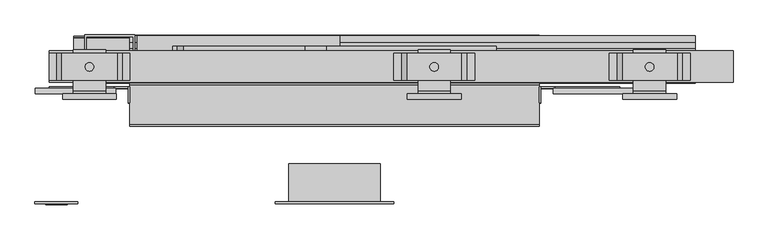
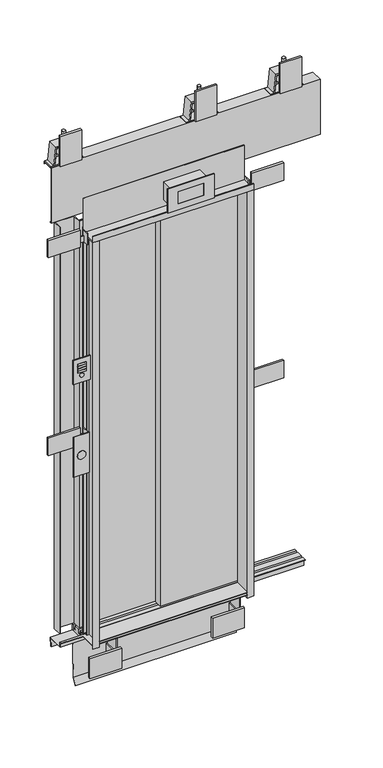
"""IFC4 building model written with IfcOpenShell, lengths in millimetres: proxy geometry, SHLZ_Дверь_0621Е_0411 : SHLZ_Дверь_0621Е_0411."""

from ifc_helpers import new_model, si_unit, point, frame, frame_2d, origin, origin_with_axes, place, context, project, spatial, polyline, circle_curve, trimmed, segment, composite_curve, outline, extrude, faceted_brep, source, transform, mapped, element, save
from ifc_brep_helpers import plane_surface, cylinder_surface, advanced_brep


def generic_models_b9712135(model_context):
    return source(origin(), model_context, "Body", "SolidModel", [
        extrude(outline(polyline([(-365.0, 20.0), (-350.0, 20.0), (-350.0, -60.0), (-380.0, -60.0), (-380.0, -57.0), (-353.0, -57.0), (-353.0, 17.0), (-365.0, 17.0), (-365.0, 20.0)])), frame((0.0, 0.0, -30.0), z_axis=(0.0, 0.0, 1.0), x_axis=(1.0, 0.0, 0.0)), (0.0, 0.0, 1.0), 2030.0),
        extrude(outline(polyline([(-57.0, 2030.0), (-57.0, 2003.0), (17.0, 2003.0), (17.0, 2175.0), (20.0, 2175.0), (20.0, 2000.0), (-60.0, 2000.0), (-60.0, 2030.0), (-57.0, 2030.0)])), frame((-380.0, 0.0, 0.0), z_axis=(1.0, 0.0, 0.0), x_axis=(0.0, 1.0, 0.0)), (0.0, 0.0, 1.0), 760.0),
        extrude(outline(polyline([(-556.3, -200.0), (-476.3, -200.0), (-476.3, -204.0), (-556.3, -204.0), (-556.3, -200.0)])), frame((0.0, 0.0, 1440.0), z_axis=(0.0, 0.0, 1.0), x_axis=(1.0, 0.0, 0.0)), (0.0, 0.0, 1.0), 120.0),
        extrude(outline(composite_curve([segment(trimmed(circle_curve(frame_2d((1476.0113201, -516.3)), 10.0), [point((1476.0113201, -526.3))], [point((1476.0113201, -506.3))], False, "CARTESIAN"), True, "CONTINUOUS"), segment(trimmed(circle_curve(frame_2d((1476.0113201, -516.3)), 10.0), [point((1476.0113201, -506.3))], [point((1476.0113201, -526.3))], False, "CARTESIAN"), True, "CONTINUOUS")], self_intersect=False)), frame((0.0, -206.0, 0.0), z_axis=(0.0, 1.0, 0.0), x_axis=(0.0, 0.0, 1.0)), (0.0, 0.0, 1.0), 2.0),
        extrude(outline(polyline([(-536.3, -206.0), (-536.3, -204.0), (-496.3, -204.0), (-496.3, -206.0), (-536.3, -206.0)])), frame((0.0, 0.0, 1502.3637345), z_axis=(0.0, 0.0, 1.0), x_axis=(1.0, 0.0, 0.0)), (0.0, 0.0, 1.0), 10.0),
        extrude(outline(polyline([(-536.3, -206.0), (-536.3, -204.0), (-496.3, -204.0), (-496.3, -206.0), (-536.3, -206.0)])), frame((0.0, 0.0, 1490.6113201), z_axis=(0.0, 0.0, 1.0), x_axis=(1.0, 0.0, 0.0)), (0.0, 0.0, 1.0), 10.0),
        extrude(outline(polyline([(-536.3, -206.0), (-536.3, -204.0), (-496.3, -204.0), (-496.3, -206.0), (-536.3, -206.0)])), frame((0.0, 0.0, 1514.1161488), z_axis=(0.0, 0.0, 1.0), x_axis=(1.0, 0.0, 0.0)), (0.0, 0.0, 1.0), 10.0),
        extrude(outline(polyline([(-536.3, -206.0), (-536.3, -204.0), (-496.3, -204.0), (-496.3, -206.0), (-536.3, -206.0)])), frame((0.0, 0.0, 1525.8685632), z_axis=(0.0, 0.0, 1.0), x_axis=(1.0, 0.0, 0.0)), (0.0, 0.0, 1.0), 10.0),
        extrude(outline(polyline([(-553.5601691, -202.0), (-553.5601691, -200.0), (-479.0398309, -200.0), (-479.0398309, -202.0), (-553.5601691, -202.0)])), frame((0.0, 0.0, 975.0), z_axis=(0.0, 0.0, 1.0), x_axis=(1.0, 0.0, 0.0)), (0.0, 0.0, 1.0), 200.0),
        extrude(outline(composite_curve([segment(trimmed(circle_curve(frame_2d((1075.0, -516.3)), 20.0), [point((1075.0, -496.3))], [point((1075.0, -536.3))], False, "CARTESIAN"), True, "CONTINUOUS"), segment(trimmed(circle_curve(frame_2d((1075.0, -516.3)), 20.0), [point((1075.0, -536.3))], [point((1075.0, -496.3))], False, "CARTESIAN"), True, "CONTINUOUS")], self_intersect=False)), frame((0.0, -204.0226285, 0.0), z_axis=(0.0, 1.0, 0.0), x_axis=(0.0, 0.0, 1.0)), (0.0, 0.0, 1.0), 2.0226285),
        extrude(outline(polyline([(-556.0, 10.0), (-406.0, 10.0), (-406.0, 0.0), (-556.0, 0.0), (-556.0, 10.0)])), frame((0.0, 0.0, 1949.5), z_axis=(0.0, 0.0, 1.0), x_axis=(1.0, 0.0, 0.0)), (0.0, 0.0, 1.0), 87.0),
        faceted_brep([(-380.0, -17.0, 2021.5), (-383.0, -17.0, 2021.5), (-383.0, -17.0, 1964.5), (-380.0, -17.0, 1964.5), (-530.0, 13.0, 2021.5), (-410.0, 13.0, 2021.5), (-410.0, 13.0, 1994.5), (-383.0, 13.0, 1994.5), (-383.0, 13.0, 2021.5), (-380.0, 13.0, 2021.5), (-380.0, 13.0, 1964.5), (-530.0, 13.0, 1964.5), (-530.0, 10.0, 2021.5), (-410.0, 10.0, 2021.5), (-383.0, 10.0, 1964.5), (-530.0, 10.0, 1964.5), (-383.0, 10.0, 1994.5), (-410.0, 10.0, 1994.5)], [[[0, 1, 2, 3]], [[4, 5, 6, 7, 8, 9, 10, 11]], [[9, 8, 1, 0]], [[12, 13, 5, 4]], [[3, 10, 9, 0]], [[10, 3, 2, 14, 15, 11]], [[11, 15, 12, 4]], [[14, 16, 17, 13, 12, 15]], [[1, 8, 7, 16, 14, 2]], [[7, 6, 17, 16]], [[6, 5, 13, 17]]]),
        extrude(outline(polyline([(556.0, 10.0), (556.0, 0.0), (406.0, 0.0), (406.0, 10.0), (556.0, 10.0)])), frame((0.0, 0.0, 1949.5), z_axis=(0.0, 0.0, 1.0), x_axis=(1.0, 0.0, 0.0)), (0.0, 0.0, 1.0), 87.0),
        faceted_brep([(380.0, -17.0, 2021.5), (380.0, -17.0, 1964.5), (383.0, -17.0, 1964.5), (383.0, -17.0, 2021.5), (530.0, 13.0, 2021.5), (530.0, 13.0, 1964.5), (380.0, 13.0, 1964.5), (380.0, 13.0, 2021.5), (383.0, 13.0, 2021.5), (383.0, 13.0, 1994.5), (410.0, 13.0, 1994.5), (410.0, 13.0, 2021.5), (530.0, 10.0, 2021.5), (410.0, 10.0, 2021.5), (530.0, 10.0, 1964.5), (383.0, 10.0, 1964.5), (410.0, 10.0, 1994.5), (383.0, 10.0, 1994.5)], [[[0, 1, 2, 3]], [[4, 5, 6, 7, 8, 9, 10, 11]], [[12, 4, 11, 13]], [[7, 0, 3, 8]], [[1, 0, 7, 6]], [[6, 5, 14, 15, 2, 1]], [[5, 4, 12, 14]], [[15, 14, 12, 13, 16, 17]], [[3, 2, 15, 17, 9, 8]], [[9, 17, 16, 10]], [[10, 16, 13, 11]]]),
        extrude(outline(polyline([(-556.0, 10.0), (-406.0, 10.0), (-406.0, 0.0), (-556.0, 0.0), (-556.0, 10.0)])), frame((0.0, 0.0, 961.5), z_axis=(0.0, 0.0, 1.0), x_axis=(1.0, 0.0, 0.0)), (0.0, 0.0, 1.0), 87.0),
        faceted_brep([(-380.0, -17.0, 1033.5), (-383.0, -17.0, 1033.5), (-383.0, -17.0, 976.5), (-380.0, -17.0, 976.5), (-530.0, 13.0, 1033.5), (-410.0, 13.0, 1033.5), (-410.0, 13.0, 1006.5), (-383.0, 13.0, 1006.5), (-383.0, 13.0, 1033.5), (-380.0, 13.0, 1033.5), (-380.0, 13.0, 976.5), (-530.0, 13.0, 976.5), (-530.0, 10.0, 1033.5), (-410.0, 10.0, 1033.5), (-383.0, 10.0, 976.5), (-530.0, 10.0, 976.5), (-383.0, 10.0, 1006.5), (-410.0, 10.0, 1006.5)], [[[0, 1, 2, 3]], [[4, 5, 6, 7, 8, 9, 10, 11]], [[9, 8, 1, 0]], [[12, 13, 5, 4]], [[3, 10, 9, 0]], [[10, 3, 2, 14, 15, 11]], [[11, 15, 12, 4]], [[14, 16, 17, 13, 12, 15]], [[1, 8, 7, 16, 14, 2]], [[7, 6, 17, 16]], [[6, 5, 13, 17]]]),
        extrude(outline(polyline([(556.0, 10.0), (556.0, 0.0), (406.0, 0.0), (406.0, 10.0), (556.0, 10.0)])), frame((0.0, 0.0, 961.5), z_axis=(0.0, 0.0, 1.0), x_axis=(1.0, 0.0, 0.0)), (0.0, 0.0, 1.0), 87.0),
        faceted_brep([(380.0, -17.0, 1033.5), (380.0, -17.0, 976.5), (383.0, -17.0, 976.5), (383.0, -17.0, 1033.5), (530.0, 13.0, 1033.5), (530.0, 13.0, 976.5), (380.0, 13.0, 976.5), (380.0, 13.0, 1033.5), (383.0, 13.0, 1033.5), (383.0, 13.0, 1006.5), (410.0, 13.0, 1006.5), (410.0, 13.0, 1033.5), (530.0, 10.0, 1033.5), (410.0, 10.0, 1033.5), (530.0, 10.0, 976.5), (383.0, 10.0, 976.5), (410.0, 10.0, 1006.5), (383.0, 10.0, 1006.5)], [[[0, 1, 2, 3]], [[4, 5, 6, 7, 8, 9, 10, 11]], [[12, 4, 11, 13]], [[7, 0, 3, 8]], [[1, 0, 7, 6]], [[6, 5, 14, 15, 2, 1]], [[5, 4, 12, 14]], [[15, 14, 12, 13, 16, 17]], [[3, 2, 15, 17, 9, 8]], [[9, 17, 16, 10]], [[10, 16, 13, 11]]]),
        extrude(outline(polyline([(82.0, 2410.0), (0.0, 2410.0), (0.0, 2530.0), (5.0, 2530.0), (5.0, 2415.0), (82.0, 2415.0), (82.0, 2410.0)])), frame((555.0, 0.0, 0.0), z_axis=(1.0, 0.0, 0.0), x_axis=(0.0, 1.0, 0.0)), (0.0, 0.0, 1.0), 60.0),
        extrude(outline(polyline([(635.0, 0.0), (635.0, -10.0), (535.0, -10.0), (535.0, 0.0), (635.0, 0.0)])), frame((0.0, 0.0, 2394.0), z_axis=(0.0, 0.0, 1.0), x_axis=(1.0, 0.0, 0.0)), (0.0, 0.0, 1.0), 150.0),
        extrude(outline(polyline([(660.0, 25.0), (510.0, 25.0), (510.0, 75.0), (660.0, 75.0), (660.0, 25.0)])), frame((0.0, 0.0, 2375.0), z_axis=(0.0, 0.0, 1.0), x_axis=(1.0, 0.0, 0.0)), (0.0, 0.0, 1.0), 5.0),
        advanced_brep(
        [(577.0, 50.0, 2410.0), (593.0, 50.0, 2410.0), (577.0, 50.0, 2385.0), (593.0, 50.0, 2385.0)],
        [
            (0, 1, circle_curve(frame((585.0, 50.0, 2410.0), z_axis=(0.0, 0.0, 1.0), x_axis=(1.0, 0.0, 0.0)), 8.0)),
            (1, 0, circle_curve(frame((585.0, 50.0, 2410.0), z_axis=(0.0, 0.0, 1.0), x_axis=(1.0, 0.0, 0.0)), 8.0)),
            (2, 3, circle_curve(frame((585.0, 50.0, 2385.0), z_axis=(0.0, 0.0, -1.0), x_axis=(1.0, 0.0, 0.0)), 8.0)),
            (3, 2, circle_curve(frame((585.0, 50.0, 2385.0), z_axis=(0.0, 0.0, -1.0), x_axis=(1.0, 0.0, 0.0)), 8.0)),
            (3, 1),
            (0, 2),
        ],
        [
            plane_surface(frame((615.0, 0.0, 2410.0), z_axis=(0.0, 0.0, 1.0), x_axis=(-1.0, 0.0, 0.0))),
            plane_surface(frame((593.0, 50.0, 2385.0), z_axis=(0.0, 0.0, -1.0), x_axis=(0.0, -1.0, 0.0))),
            cylinder_surface(frame((585.0, 50.0, 2385.0), z_axis=(0.0, 0.0, 1.0), x_axis=(1.0, 0.0, 0.0)), 8.0),
        ],
        [
            (0, [[1, 2]]),
            (1, [[3, 4]]),
            (2, [[-4, 5, -1, 6]]),
            (2, [[-3, -6, -2, -5]]),
        ],
    ),
        advanced_brep(
        [(538.3, 25.0, 2465.0), (529.0, 25.0, 2380.0), (529.0, 75.0, 2380.0), (538.3, 75.0, 2465.0), (524.0, 75.0, 2380.0), (533.8470588, 75.0, 2470.0), (636.1529412, 75.0, 2470.0), (646.0, 75.0, 2380.0), (641.0, 75.0, 2380.0), (631.7, 75.0, 2465.0), (577.0, 50.0, 2521.0), (593.0, 50.0, 2521.0), (577.0, 50.0, 2470.0), (593.0, 50.0, 2470.0), (631.7, 25.0, 2465.0), (641.0, 25.0, 2380.0), (646.0, 25.0, 2380.0), (636.1529412, 25.0, 2470.0), (533.8470588, 25.0, 2470.0), (524.0, 25.0, 2380.0), (577.0, 50.0, 2465.0), (593.0, 50.0, 2465.0), (593.0, 50.0, 2415.0), (577.0, 50.0, 2415.0)],
        [
            (0, 1),
            (1, 2),
            (2, 3),
            (3, 0),
            (2, 4),
            (4, 5),
            (5, 6),
            (6, 7),
            (7, 8),
            (8, 9),
            (9, 3),
            (10, 11, circle_curve(frame((585.0, 50.0, 2521.0), z_axis=(0.0, 0.0, 1.0), x_axis=(1.0, 0.0, 0.0)), 8.0)),
            (11, 10, circle_curve(frame((585.0, 50.0, 2521.0), z_axis=(0.0, 0.0, 1.0), x_axis=(1.0, 0.0, 0.0)), 8.0)),
            (10, 12),
            (12, 13, circle_curve(frame((585.0, 50.0, 2470.0), z_axis=(0.0, 0.0, 1.0), x_axis=(1.0, 0.0, 0.0)), 8.0)),
            (13, 11),
            (13, 12, circle_curve(frame((585.0, 50.0, 2470.0), z_axis=(0.0, 0.0, 1.0), x_axis=(1.0, 0.0, 0.0)), 8.0)),
            (0, 14),
            (14, 15),
            (15, 16),
            (16, 17),
            (17, 18),
            (18, 19),
            (19, 1),
            (9, 14),
            (20, 21, circle_curve(frame((585.0, 50.0, 2465.0), z_axis=(0.0, 0.0, 1.0), x_axis=(1.0, 0.0, 0.0)), 8.0)),
            (21, 20, circle_curve(frame((585.0, 50.0, 2465.0), z_axis=(0.0, 0.0, 1.0), x_axis=(1.0, 0.0, 0.0)), 8.0)),
            (8, 15),
            (7, 16),
            (6, 17),
            (5, 18),
            (4, 19),
            (22, 23, circle_curve(frame((585.0, 50.0, 2415.0), z_axis=(0.0, 0.0, -1.0), x_axis=(1.0, 0.0, 0.0)), 8.0)),
            (23, 22, circle_curve(frame((585.0, 50.0, 2415.0), z_axis=(0.0, 0.0, -1.0), x_axis=(1.0, 0.0, 0.0)), 8.0)),
            (20, 23),
            (22, 21),
        ],
        [
            plane_surface(frame((529.0, 25.0, 2380.0), z_axis=(0.9940677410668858, 0.0, -0.10876270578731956), x_axis=(0.0, 1.0, 0.0))),
            plane_surface(frame((538.3, 75.0, 2465.0), z_axis=(0.0, 1.0, 0.0), x_axis=(-1.0, 0.0, 0.0))),
            plane_surface(frame((593.0, 50.0, 2521.0), z_axis=(0.0, 0.0, 1.0), x_axis=(0.0, 1.0, 0.0))),
            cylinder_surface(frame((585.0, 50.0, 2385.0), z_axis=(0.0, 0.0, 1.0), x_axis=(1.0, 0.0, 0.0)), 8.0),
            plane_surface(frame((538.3, 25.0, 2465.0), z_axis=(0.0, -1.0, 0.0), x_axis=(1.0, 0.0, 0.0))),
            plane_surface(frame((538.3, 25.0, 2465.0), z_axis=(0.0, 0.0, -1.0), x_axis=(0.0, 1.0, 0.0))),
            plane_surface(frame((631.7, 25.0, 2465.0), z_axis=(-0.9940677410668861, 0.0, -0.1087627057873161), x_axis=(0.0, 1.0, 0.0))),
            plane_surface(frame((641.0, 25.0, 2380.0), z_axis=(0.0, 0.0, -1.0), x_axis=(0.0, 1.0, 0.0))),
            plane_surface(frame((646.0, 25.0, 2380.0), z_axis=(0.9940677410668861, 0.0, 0.10876270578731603), x_axis=(0.0, 1.0, 0.0))),
            plane_surface(frame((636.1529412, 25.0, 2470.0), z_axis=(0.0, 0.0, 1.0), x_axis=(0.0, 1.0, 0.0))),
            plane_surface(frame((533.8470588, 25.0, 2470.0), z_axis=(-0.9940677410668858, 0.0, 0.10876270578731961), x_axis=(0.0, 1.0, 0.0))),
            plane_surface(frame((524.0, 25.0, 2380.0), z_axis=(0.0, 0.0, -1.0), x_axis=(0.0, 1.0, 0.0))),
            plane_surface(frame((615.0, 82.0, 2415.0), z_axis=(0.0, 0.0, -1.0), x_axis=(-1.0, 0.0, 0.0))),
        ],
        [
            (0, [[1, 2, 3, 4]]),
            (1, [[-3, 5, 6, 7, 8, 9, 10, 11]]),
            (2, [[12, 13]]),
            (3, [[-12, 14, 15, 16]]),
            (3, [[-13, -16, 17, -14]]),
            (4, [[18, 19, 20, 21, 22, 23, 24, -1]]),
            (5, [[-18, -4, -11, 25], [26, 27]]),
            (6, [[-19, -25, -10, 28]]),
            (7, [[-20, -28, -9, 29]]),
            (8, [[-21, -29, -8, 30]]),
            (9, [[-22, -30, -7, 31], [-15, -17]]),
            (10, [[-23, -31, -6, 32]]),
            (11, [[-24, -32, -5, -2]]),
            (12, [[33, 34]]),
            (3, [[-26, 35, -33, 36]]),
            (3, [[-27, -36, -34, -35]]),
        ],
    ),
        extrude(outline(polyline([(82.0, 2410.0), (0.0, 2410.0), (0.0, 2530.0), (5.0, 2530.0), (5.0, 2415.0), (82.0, 2415.0), (82.0, 2410.0)])), frame((155.0, 0.0, 0.0), z_axis=(1.0, 0.0, 0.0), x_axis=(0.0, 1.0, 0.0)), (0.0, 0.0, 1.0), 60.0),
        extrude(outline(polyline([(235.0, 0.0), (235.0, -10.0), (135.0, -10.0), (135.0, 0.0), (235.0, 0.0)])), frame((0.0, 0.0, 2394.0), z_axis=(0.0, 0.0, 1.0), x_axis=(1.0, 0.0, 0.0)), (0.0, 0.0, 1.0), 150.0),
        extrude(outline(polyline([(260.0, 25.0), (110.0, 25.0), (110.0, 75.0), (260.0, 75.0), (260.0, 25.0)])), frame((0.0, 0.0, 2375.0), z_axis=(0.0, 0.0, 1.0), x_axis=(1.0, 0.0, 0.0)), (0.0, 0.0, 1.0), 5.0),
        advanced_brep(
        [(177.0, 50.0, 2410.0), (193.0, 50.0, 2410.0), (177.0, 50.0, 2385.0), (193.0, 50.0, 2385.0)],
        [
            (0, 1, circle_curve(frame((185.0, 50.0, 2410.0), z_axis=(0.0, 0.0, 1.0), x_axis=(1.0, 0.0, 0.0)), 8.0)),
            (1, 0, circle_curve(frame((185.0, 50.0, 2410.0), z_axis=(0.0, 0.0, 1.0), x_axis=(1.0, 0.0, 0.0)), 8.0)),
            (2, 3, circle_curve(frame((185.0, 50.0, 2385.0), z_axis=(0.0, 0.0, -1.0), x_axis=(1.0, 0.0, 0.0)), 8.0)),
            (3, 2, circle_curve(frame((185.0, 50.0, 2385.0), z_axis=(0.0, 0.0, -1.0), x_axis=(1.0, 0.0, 0.0)), 8.0)),
            (3, 1),
            (0, 2),
        ],
        [
            plane_surface(frame((215.0, 0.0, 2410.0), z_axis=(0.0, 0.0, 1.0), x_axis=(-1.0, 0.0, 0.0))),
            plane_surface(frame((193.0, 50.0, 2385.0), z_axis=(0.0, 0.0, -1.0), x_axis=(0.0, -1.0, 0.0))),
            cylinder_surface(frame((185.0, 50.0, 2385.0), z_axis=(0.0, 0.0, 1.0), x_axis=(1.0, 0.0, 0.0)), 8.0),
        ],
        [
            (0, [[1, 2]]),
            (1, [[3, 4]]),
            (2, [[-4, 5, -1, 6]]),
            (2, [[-3, -6, -2, -5]]),
        ],
    ),
        advanced_brep(
        [(138.3, 25.0, 2465.0), (129.0, 25.0, 2380.0), (129.0, 75.0, 2380.0), (138.3, 75.0, 2465.0), (124.0, 75.0, 2380.0), (133.8470588, 75.0, 2470.0), (236.1529412, 75.0, 2470.0), (246.0, 75.0, 2380.0), (241.0, 75.0, 2380.0), (231.7, 75.0, 2465.0), (177.0, 50.0, 2521.0), (193.0, 50.0, 2521.0), (177.0, 50.0, 2470.0), (193.0, 50.0, 2470.0), (231.7, 25.0, 2465.0), (241.0, 25.0, 2380.0), (246.0, 25.0, 2380.0), (236.1529412, 25.0, 2470.0), (133.8470588, 25.0, 2470.0), (124.0, 25.0, 2380.0), (177.0, 50.0, 2465.0), (193.0, 50.0, 2465.0), (193.0, 50.0, 2415.0), (177.0, 50.0, 2415.0)],
        [
            (0, 1),
            (1, 2),
            (2, 3),
            (3, 0),
            (2, 4),
            (4, 5),
            (5, 6),
            (6, 7),
            (7, 8),
            (8, 9),
            (9, 3),
            (10, 11, circle_curve(frame((185.0, 50.0, 2521.0), z_axis=(0.0, 0.0, 1.0), x_axis=(1.0, 0.0, 0.0)), 8.0)),
            (11, 10, circle_curve(frame((185.0, 50.0, 2521.0), z_axis=(0.0, 0.0, 1.0), x_axis=(1.0, 0.0, 0.0)), 8.0)),
            (10, 12),
            (12, 13, circle_curve(frame((185.0, 50.0, 2470.0), z_axis=(0.0, 0.0, 1.0), x_axis=(1.0, 0.0, 0.0)), 8.0)),
            (13, 11),
            (13, 12, circle_curve(frame((185.0, 50.0, 2470.0), z_axis=(0.0, 0.0, 1.0), x_axis=(1.0, 0.0, 0.0)), 8.0)),
            (0, 14),
            (14, 15),
            (15, 16),
            (16, 17),
            (17, 18),
            (18, 19),
            (19, 1),
            (9, 14),
            (20, 21, circle_curve(frame((185.0, 50.0, 2465.0), z_axis=(0.0, 0.0, 1.0), x_axis=(1.0, 0.0, 0.0)), 8.0)),
            (21, 20, circle_curve(frame((185.0, 50.0, 2465.0), z_axis=(0.0, 0.0, 1.0), x_axis=(1.0, 0.0, 0.0)), 8.0)),
            (8, 15),
            (7, 16),
            (6, 17),
            (5, 18),
            (4, 19),
            (22, 23, circle_curve(frame((185.0, 50.0, 2415.0), z_axis=(0.0, 0.0, -1.0), x_axis=(1.0, 0.0, 0.0)), 8.0)),
            (23, 22, circle_curve(frame((185.0, 50.0, 2415.0), z_axis=(0.0, 0.0, -1.0), x_axis=(1.0, 0.0, 0.0)), 8.0)),
            (20, 23),
            (22, 21),
        ],
        [
            plane_surface(frame((129.0, 25.0, 2380.0), z_axis=(0.9940677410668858, 0.0, -0.10876270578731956), x_axis=(0.0, 1.0, 0.0))),
            plane_surface(frame((138.3, 75.0, 2465.0), z_axis=(0.0, 1.0, 0.0), x_axis=(-1.0, 0.0, 0.0))),
            plane_surface(frame((193.0, 50.0, 2521.0), z_axis=(0.0, 0.0, 1.0), x_axis=(0.0, 1.0, 0.0))),
            cylinder_surface(frame((185.0, 50.0, 2385.0), z_axis=(0.0, 0.0, 1.0), x_axis=(1.0, 0.0, 0.0)), 8.0),
            plane_surface(frame((138.3, 25.0, 2465.0), z_axis=(0.0, -1.0, 0.0), x_axis=(1.0, 0.0, 0.0))),
            plane_surface(frame((138.3, 25.0, 2465.0), z_axis=(0.0, 0.0, -1.0), x_axis=(0.0, 1.0, 0.0))),
            plane_surface(frame((231.7, 25.0, 2465.0), z_axis=(-0.9940677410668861, 0.0, -0.1087627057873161), x_axis=(0.0, 1.0, 0.0))),
            plane_surface(frame((241.0, 25.0, 2380.0), z_axis=(0.0, 0.0, -1.0), x_axis=(0.0, 1.0, 0.0))),
            plane_surface(frame((246.0, 25.0, 2380.0), z_axis=(0.9940677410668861, 0.0, 0.10876270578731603), x_axis=(0.0, 1.0, 0.0))),
            plane_surface(frame((236.1529412, 25.0, 2470.0), z_axis=(0.0, 0.0, 1.0), x_axis=(0.0, 1.0, 0.0))),
            plane_surface(frame((133.8470588, 25.0, 2470.0), z_axis=(-0.9940677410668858, 0.0, 0.10876270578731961), x_axis=(0.0, 1.0, 0.0))),
            plane_surface(frame((124.0, 25.0, 2380.0), z_axis=(0.0, 0.0, -1.0), x_axis=(0.0, 1.0, 0.0))),
            plane_surface(frame((215.0, 82.0, 2415.0), z_axis=(0.0, 0.0, -1.0), x_axis=(-1.0, 0.0, 0.0))),
        ],
        [
            (0, [[1, 2, 3, 4]]),
            (1, [[-3, 5, 6, 7, 8, 9, 10, 11]]),
            (2, [[12, 13]]),
            (3, [[-12, 14, 15, 16]]),
            (3, [[-13, -16, 17, -14]]),
            (4, [[18, 19, 20, 21, 22, 23, 24, -1]]),
            (5, [[-18, -4, -11, 25], [26, 27]]),
            (6, [[-19, -25, -10, 28]]),
            (7, [[-20, -28, -9, 29]]),
            (8, [[-21, -29, -8, 30]]),
            (9, [[-22, -30, -7, 31], [-15, -17]]),
            (10, [[-23, -31, -6, 32]]),
            (11, [[-24, -32, -5, -2]]),
            (12, [[33, 34]]),
            (3, [[-26, 35, -33, 36]]),
            (3, [[-27, -36, -34, -35]]),
        ],
    ),
        extrude(outline(polyline([(82.0, 2410.0), (0.0, 2410.0), (0.0, 2530.0), (5.0, 2530.0), (5.0, 2415.0), (82.0, 2415.0), (82.0, 2410.0)])), frame((-485.0, 0.0, 0.0), z_axis=(1.0, 0.0, 0.0), x_axis=(0.0, 1.0, 0.0)), (0.0, 0.0, 1.0), 60.0),
        extrude(outline(polyline([(-405.0, 0.0), (-405.0, -10.0), (-505.0, -10.0), (-505.0, 0.0), (-405.0, 0.0)])), frame((0.0, 0.0, 2394.0), z_axis=(0.0, 0.0, 1.0), x_axis=(1.0, 0.0, 0.0)), (0.0, 0.0, 1.0), 150.0),
        extrude(outline(polyline([(-380.0, 25.0), (-530.0, 25.0), (-530.0, 75.0), (-380.0, 75.0), (-380.0, 25.0)])), frame((0.0, 0.0, 2375.0), z_axis=(0.0, 0.0, 1.0), x_axis=(1.0, 0.0, 0.0)), (0.0, 0.0, 1.0), 5.0),
        advanced_brep(
        [(-463.0, 50.0, 2410.0), (-447.0, 50.0, 2410.0), (-463.0, 50.0, 2385.0), (-447.0, 50.0, 2385.0)],
        [
            (0, 1, circle_curve(frame((-455.0, 50.0, 2410.0), z_axis=(0.0, 0.0, 1.0), x_axis=(1.0, 0.0, 0.0)), 8.0)),
            (1, 0, circle_curve(frame((-455.0, 50.0, 2410.0), z_axis=(0.0, 0.0, 1.0), x_axis=(1.0, 0.0, 0.0)), 8.0)),
            (2, 3, circle_curve(frame((-455.0, 50.0, 2385.0), z_axis=(0.0, 0.0, -1.0), x_axis=(1.0, 0.0, 0.0)), 8.0)),
            (3, 2, circle_curve(frame((-455.0, 50.0, 2385.0), z_axis=(0.0, 0.0, -1.0), x_axis=(1.0, 0.0, 0.0)), 8.0)),
            (3, 1),
            (0, 2),
        ],
        [
            plane_surface(frame((-425.0, 0.0, 2410.0), z_axis=(0.0, 0.0, 1.0), x_axis=(-1.0, 0.0, 0.0))),
            plane_surface(frame((-447.0, 50.0, 2385.0), z_axis=(0.0, 0.0, -1.0), x_axis=(0.0, -1.0, 0.0))),
            cylinder_surface(frame((-455.0, 50.0, 2385.0), z_axis=(0.0, 0.0, 1.0), x_axis=(1.0, 0.0, 0.0)), 8.0),
        ],
        [
            (0, [[1, 2]]),
            (1, [[3, 4]]),
            (2, [[-4, 5, -1, 6]]),
            (2, [[-3, -6, -2, -5]]),
        ],
    ),
        advanced_brep(
        [(-501.7, 25.0, 2465.0), (-511.0, 25.0, 2380.0), (-511.0, 75.0, 2380.0), (-501.7, 75.0, 2465.0), (-516.0, 75.0, 2380.0), (-506.1529412, 75.0, 2470.0), (-403.8470588, 75.0, 2470.0), (-394.0, 75.0, 2380.0), (-399.0, 75.0, 2380.0), (-408.3, 75.0, 2465.0), (-463.0, 50.0, 2521.0), (-447.0, 50.0, 2521.0), (-463.0, 50.0, 2470.0), (-447.0, 50.0, 2470.0), (-408.3, 25.0, 2465.0), (-399.0, 25.0, 2380.0), (-394.0, 25.0, 2380.0), (-403.8470588, 25.0, 2470.0), (-506.1529412, 25.0, 2470.0), (-516.0, 25.0, 2380.0), (-463.0, 50.0, 2465.0), (-447.0, 50.0, 2465.0), (-447.0, 50.0, 2415.0), (-463.0, 50.0, 2415.0)],
        [
            (0, 1),
            (1, 2),
            (2, 3),
            (3, 0),
            (2, 4),
            (4, 5),
            (5, 6),
            (6, 7),
            (7, 8),
            (8, 9),
            (9, 3),
            (10, 11, circle_curve(frame((-455.0, 50.0, 2521.0), z_axis=(0.0, 0.0, 1.0), x_axis=(1.0, 0.0, 0.0)), 8.0)),
            (11, 10, circle_curve(frame((-455.0, 50.0, 2521.0), z_axis=(0.0, 0.0, 1.0), x_axis=(1.0, 0.0, 0.0)), 8.0)),
            (10, 12),
            (12, 13, circle_curve(frame((-455.0, 50.0, 2470.0), z_axis=(0.0, 0.0, 1.0), x_axis=(1.0, 0.0, 0.0)), 8.0)),
            (13, 11),
            (13, 12, circle_curve(frame((-455.0, 50.0, 2470.0), z_axis=(0.0, 0.0, 1.0), x_axis=(1.0, 0.0, 0.0)), 8.0)),
            (0, 14),
            (14, 15),
            (15, 16),
            (16, 17),
            (17, 18),
            (18, 19),
            (19, 1),
            (9, 14),
            (20, 21, circle_curve(frame((-455.0, 50.0, 2465.0), z_axis=(0.0, 0.0, 1.0), x_axis=(1.0, 0.0, 0.0)), 8.0)),
            (21, 20, circle_curve(frame((-455.0, 50.0, 2465.0), z_axis=(0.0, 0.0, 1.0), x_axis=(1.0, 0.0, 0.0)), 8.0)),
            (8, 15),
            (7, 16),
            (6, 17),
            (5, 18),
            (4, 19),
            (22, 23, circle_curve(frame((-455.0, 50.0, 2415.0), z_axis=(0.0, 0.0, -1.0), x_axis=(1.0, 0.0, 0.0)), 8.0)),
            (23, 22, circle_curve(frame((-455.0, 50.0, 2415.0), z_axis=(0.0, 0.0, -1.0), x_axis=(1.0, 0.0, 0.0)), 8.0)),
            (20, 23),
            (22, 21),
        ],
        [
            plane_surface(frame((-511.0, 25.0, 2380.0), z_axis=(0.9940677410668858, 0.0, -0.10876270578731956), x_axis=(0.0, 1.0, 0.0))),
            plane_surface(frame((-501.7, 75.0, 2465.0), z_axis=(0.0, 1.0, 0.0), x_axis=(-1.0, 0.0, 0.0))),
            plane_surface(frame((-447.0, 50.0, 2521.0), z_axis=(0.0, 0.0, 1.0), x_axis=(0.0, 1.0, 0.0))),
            cylinder_surface(frame((-455.0, 50.0, 2385.0), z_axis=(0.0, 0.0, 1.0), x_axis=(1.0, 0.0, 0.0)), 8.0),
            plane_surface(frame((-501.7, 25.0, 2465.0), z_axis=(0.0, -1.0, 0.0), x_axis=(1.0, 0.0, 0.0))),
            plane_surface(frame((-501.7, 25.0, 2465.0), z_axis=(0.0, 0.0, -1.0), x_axis=(0.0, 1.0, 0.0))),
            plane_surface(frame((-408.3, 25.0, 2465.0), z_axis=(-0.9940677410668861, 0.0, -0.1087627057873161), x_axis=(0.0, 1.0, 0.0))),
            plane_surface(frame((-399.0, 25.0, 2380.0), z_axis=(0.0, 0.0, -1.0), x_axis=(0.0, 1.0, 0.0))),
            plane_surface(frame((-394.0, 25.0, 2380.0), z_axis=(0.9940677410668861, 0.0, 0.10876270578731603), x_axis=(0.0, 1.0, 0.0))),
            plane_surface(frame((-403.8470588, 25.0, 2470.0), z_axis=(0.0, 0.0, 1.0), x_axis=(0.0, 1.0, 0.0))),
            plane_surface(frame((-506.1529412, 25.0, 2470.0), z_axis=(-0.9940677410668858, 0.0, 0.10876270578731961), x_axis=(0.0, 1.0, 0.0))),
            plane_surface(frame((-516.0, 25.0, 2380.0), z_axis=(0.0, 0.0, -1.0), x_axis=(0.0, 1.0, 0.0))),
            plane_surface(frame((-425.0, 82.0, 2415.0), z_axis=(0.0, 0.0, -1.0), x_axis=(-1.0, 0.0, 0.0))),
        ],
        [
            (0, [[1, 2, 3, 4]]),
            (1, [[-3, 5, 6, 7, 8, 9, 10, 11]]),
            (2, [[12, 13]]),
            (3, [[-12, 14, 15, 16]]),
            (3, [[-13, -16, 17, -14]]),
            (4, [[18, 19, 20, 21, 22, 23, 24, -1]]),
            (5, [[-18, -4, -11, 25], [26, 27]]),
            (6, [[-19, -25, -10, 28]]),
            (7, [[-20, -28, -9, 29]]),
            (8, [[-21, -29, -8, 30]]),
            (9, [[-22, -30, -7, 31], [-15, -17]]),
            (10, [[-23, -31, -6, 32]]),
            (11, [[-24, -32, -5, -2]]),
            (12, [[33, 34]]),
            (3, [[-26, 35, -33, 36]]),
            (3, [[-27, -36, -34, -35]]),
        ],
    ),
        faceted_brep([(-280.0, 88.6, 2315.9), (-280.0, 26.1, 2315.9), (-55.4145188, 26.1, 2315.9), (-55.4145188, 88.6, 2315.9), (-300.0, 26.1, 2070.9), (-300.0, 88.6, 2070.9), (300.0, 88.6, 2070.9), (300.0, 26.1, 2070.9), (-300.0, 26.1, 2155.010593), (-300.0, 58.6, 2155.010593), (-300.0, 58.6, 2203.7582474), (-300.0, 26.1, 2203.7582474), (-300.0, 26.1, 2245.9), (-300.0, 88.6, 2245.9), (-292.3428886, 88.6, 2245.9), (-15.0, 88.6, 2245.9), (300.0, 88.6, 2245.9), (300.0, 26.1, 2245.9), (300.0, 26.1, 2203.7582474), (300.0, 58.6, 2203.7582474), (300.0, 58.6, 2155.010593), (300.0, 26.1, 2155.010593), (-292.3428886, 26.1, 2245.9), (-15.0, 26.1, 2245.9)], [[[0, 1, 2, 3]], [[4, 5, 6, 7]], [[4, 8, 9, 10, 11, 12, 13, 5]], [[5, 13, 14, 0, 3, 15, 16, 6]], [[6, 16, 17, 18, 19, 20, 21, 7]], [[7, 21, 8, 4]], [[1, 22, 12, 11, 18, 17, 23, 2]], [[15, 3, 2, 23]], [[23, 17, 16, 15]], [[14, 13, 12, 22]], [[22, 1, 0, 14]], [[9, 8, 21, 20]], [[20, 19, 10, 9]], [[19, 18, 11, 10]]]),
        extrude(outline(polyline([(685.0, 50.0), (685.0, 40.0), (-450.0, 40.0), (-450.0, 50.0), (685.0, 50.0)])), frame((0.0, 0.0, 2158.0), z_axis=(0.0, 0.0, 1.0), x_axis=(1.0, 0.0, 0.0)), (0.0, 0.0, 1.0), 40.0),
        extrude(outline(polyline([(31.1, 2102.0), (31.1, 2100.0), (21.1, 2100.0), (21.1, 2375.0), (80.1, 2375.0), (80.1, 2365.0), (78.1, 2365.0), (78.1, 2373.0), (23.1, 2373.0), (23.1, 2102.0), (31.1, 2102.0)])), frame((-530.0, 0.0, 0.0), z_axis=(1.0, 0.0, 0.0), x_axis=(0.0, 1.0, 0.0)), (0.0, 0.0, 1.0), 1270.0),
        extrude(outline(polyline([(10.0, 108.0), (10.0, 72.0), (-366.0, 72.0), (-366.0, 108.0), (10.0, 108.0)])), origin_with_axes(), (0.0, 0.0, 1.0), 2000.0),
        extrude(outline(polyline([(380.0, 66.3), (380.0, 30.3), (-10.0, 30.3), (-10.0, 66.3), (380.0, 66.3)])), origin_with_axes(), (0.0, 0.0, 1.0), 2000.0),
        extrude(outline(polyline([(-350.0, 20.0), (-380.0, 20.0), (-380.0, 23.0), (-353.0, 23.0), (-353.0, 63.3), (-374.0, 63.3), (-374.0, 106.3), (-461.0, 106.3), (-461.0, 66.3), (-464.0, 66.3), (-464.0, 109.3), (-371.0, 109.3), (-371.0, 66.3), (-350.0, 66.3), (-350.0, 20.0)])), origin_with_axes(), (0.0, 0.0, 1.0), 2030.0),
        extrude(outline(polyline([(-43.0, -304.0), (-43.0, -229.0), (-198.0, -229.0), (-198.0, -224.0), (-38.0, -224.0), (-38.0, -304.0), (-43.0, -304.0)])), frame((0.0, 9.5536677, 0.0), z_axis=(0.0, 1.0, 0.0), x_axis=(0.0, 0.0, 1.0)), (0.0, 0.0, 1.0), 70.0),
        extrude(outline(polyline([(-349.0, 0.0), (-349.0, 5.0), (-234.0, 5.0), (-234.0, 82.0), (-229.0, 82.0), (-229.0, 0.0), (-349.0, 0.0)])), frame((0.0, 0.0, -188.0), z_axis=(0.0, 0.0, 1.0), x_axis=(1.0, 0.0, 0.0)), (0.0, 0.0, 1.0), 50.0),
        extrude(outline(polyline([(-215.0, 0.0), (-215.0, -10.0), (-365.0, -10.0), (-365.0, 0.0), (-215.0, 0.0)])), frame((0.0, 0.0, -213.0), z_axis=(0.0, 0.0, 1.0), x_axis=(1.0, 0.0, 0.0)), (0.0, 0.0, 1.0), 100.0),
        extrude(outline(polyline([(-43.0, 276.0), (-43.0, 351.0), (-198.0, 351.0), (-198.0, 356.0), (-38.0, 356.0), (-38.0, 276.0), (-43.0, 276.0)])), frame((0.0, 9.5536677, 0.0), z_axis=(0.0, 1.0, 0.0), x_axis=(0.0, 0.0, 1.0)), (0.0, 0.0, 1.0), 70.0),
        extrude(outline(polyline([(231.0, 0.0), (231.0, 5.0), (346.0, 5.0), (346.0, 82.0), (351.0, 82.0), (351.0, 0.0), (231.0, 0.0)])), frame((0.0, 0.0, -188.0), z_axis=(0.0, 0.0, 1.0), x_axis=(1.0, 0.0, 0.0)), (0.0, 0.0, 1.0), 50.0),
        extrude(outline(polyline([(365.0, 0.0), (365.0, -10.0), (215.0, -10.0), (215.0, 0.0), (365.0, 0.0)])), frame((0.0, 0.0, -213.0), z_axis=(0.0, 0.0, 1.0), x_axis=(1.0, 0.0, 0.0)), (0.0, 0.0, 1.0), 100.0),
        extrude(outline(polyline([(20.0, -3.0), (20.0, 0.0), (42.3, 0.0), (42.3, -20.0), (54.3, -20.0), (54.3, 0.0), (84.0, 0.0), (84.0, -20.0), (96.0, -20.0), (96.0, 0.0), (108.0, 0.0), (108.0, -3.0), (98.5, -3.0), (98.5, -35.0), (34.5, -35.0), (34.5, -3.0), (20.0, -3.0)])), frame((-380.0, 0.0, 0.0), z_axis=(1.0, 0.0, 0.0), x_axis=(0.0, 1.0, 0.0)), (0.0, 0.0, 1.0), 1050.0),
        faceted_brep([(424.0, 27.0, -16.0), (424.0, 27.0, -38.0), (424.0, 104.2, -38.0), (424.0, 104.2, -39.4535449), (424.0, 102.7840866, -80.0), (424.0, 105.6805978, -80.0), (424.0, 107.2, -36.4900133), (424.0, 107.2, -35.0), (424.0, 30.0, -35.0), (424.0, 30.0, -13.0), (424.0, 20.0, -13.0), (424.0, 20.0, -16.0), (-484.0, 30.0, -13.0), (-484.0, 30.0, -35.0), (-484.0, 107.2, -35.0), (-484.0, 107.2, -36.4900133), (-484.0, 105.6805978, -80.0), (-484.0, 102.7840866, -80.0), (-484.0, 104.2, -39.4535449), (-484.0, 104.2, -38.0), (-484.0, 27.0, -38.0), (-484.0, 27.0, -16.0), (-484.0, 20.0, -16.0), (-484.0, 20.0, -13.0), (-380.0, -60.0, -13.0), (-380.0, -60.0, -16.0), (350.0, -60.0, -16.0), (350.0, -60.0, -13.0), (380.0, 20.0, -16.0), (380.0, -57.0, -16.0), (353.0, -57.0, -16.0), (353.0, 17.0, -16.0), (365.0, 17.0, -16.0), (365.0, 20.0, -16.0), (350.0, 20.0, -16.0), (-380.0, 20.0, -16.0), (-380.0, 20.0, -13.0), (350.0, 20.0, -13.0), (365.0, 20.0, -13.0), (365.0, 17.0, -13.0), (353.0, 17.0, -13.0), (353.0, -57.0, -13.0), (380.0, -57.0, -13.0), (380.0, 20.0, -13.0)], [[[0, 1, 2, 3, 4, 5, 6, 7, 8, 9, 10, 11]], [[12, 13, 14, 15, 16, 17, 18, 19, 20, 21, 22, 23]], [[24, 25, 26, 27]], [[21, 0, 11, 28, 29, 30, 31, 32, 33, 34, 26, 25, 35, 22]], [[1, 0, 21, 20]], [[2, 1, 20, 19]], [[8, 7, 14, 13]], [[9, 8, 13, 12]], [[9, 12, 23, 36, 24, 27, 37, 38, 39, 40, 41, 42, 43, 10]], [[3, 2, 19, 18]], [[4, 3, 18, 17]], [[5, 4, 17, 16]], [[6, 5, 16, 15]], [[7, 6, 15, 14]], [[11, 10, 43, 28]], [[28, 43, 42, 29]], [[23, 22, 35, 36]], [[25, 24, 36, 35]], [[33, 38, 37, 34]], [[34, 37, 27, 26]], [[41, 30, 29, 42]], [[30, 41, 40, 31]], [[31, 40, 39, 32]], [[38, 33, 32, 39]]]),
        faceted_brep([(365.0, 20.0, 2000.0), (350.0, 20.0, 2000.0), (350.0, -60.0, 2000.0), (380.0, -60.0, 2000.0), (380.0, -57.0, 2000.0), (353.0, -57.0, 2000.0), (353.0, 17.0, 2000.0), (365.0, 17.0, 2000.0), (365.0, 20.0, -30.0), (365.0, 17.0, -30.0), (353.0, 17.0, -30.0), (353.0, -57.0, -30.0), (380.0, -57.0, -30.0), (380.0, -60.0, -30.0), (350.0, -60.0, -30.0), (350.0, 20.0, -30.0), (365.0, 20.0, -13.0), (365.0, 20.0, -16.0), (350.0, 20.0, -16.0), (350.0, 20.0, -13.0), (350.0, -60.0, -16.0), (350.0, -60.0, -13.0), (380.0, -57.0, -16.0), (380.0, -57.0, -13.0), (353.0, -57.0, -16.0), (353.0, -57.0, -13.0), (353.0, 17.0, -16.0), (353.0, 17.0, -13.0), (365.0, 17.0, -16.0), (365.0, 17.0, -13.0)], [[[0, 1, 2, 3, 4, 5, 6, 7]], [[8, 9, 10, 11, 12, 13, 14, 15]], [[1, 0, 16, 17, 8, 15, 18, 19]], [[2, 1, 19, 18, 15, 14, 20, 21]], [[3, 2, 21, 20, 14, 13]], [[4, 3, 13, 12, 22, 23]], [[5, 4, 23, 22, 12, 11, 24, 25]], [[6, 5, 25, 24, 11, 10, 26, 27]], [[7, 6, 27, 26, 10, 9, 28, 29]], [[0, 7, 29, 28, 9, 8, 17, 16]]]),
        faceted_brep([(110.0, -204.0, 2260.0), (-110.0, -204.0, 2260.0), (-110.0, -204.0, 2140.0), (110.0, -204.0, 2140.0), (60.0, -204.0, 2230.0), (60.0, -204.0, 2170.0), (-60.0, -204.0, 2170.0), (-60.0, -204.0, 2230.0), (110.0, -200.0, 2260.0), (110.0, -200.0, 2140.0), (-110.0, -200.0, 2140.0), (-110.0, -200.0, 2260.0), (60.0, -202.0, 2230.0), (-60.0, -202.0, 2230.0), (-60.0, -202.0, 2170.0), (60.0, -202.0, 2170.0)], [[[0, 1, 2, 3], [4, 5, 6, 7]], [[8, 9, 10, 11]], [[1, 0, 8, 11]], [[2, 1, 11, 10]], [[3, 2, 10, 9]], [[0, 3, 9, 8]], [[12, 13, 14, 15]], [[12, 15, 5, 4]], [[15, 14, 6, 5]], [[14, 13, 7, 6]], [[13, 12, 4, 7]]]),
        extrude(outline(polyline([(85.0, -200.0), (-85.0, -200.0), (-85.0, -130.0), (85.0, -130.0), (85.0, -200.0)])), frame((0.0, 0.0, 2155.0), z_axis=(0.0, 0.0, 1.0), x_axis=(1.0, 0.0, 0.0)), (0.0, 0.0, 1.0), 90.0),
        extrude(outline(polyline([(100.0, -5.9), (100.0, -4.6), (109.3, -5.0), (100.4779681, -266.8), (85.2020559, -299.0), (83.9458628, -299.0), (99.221775, -266.8), (108.0, -6.3), (100.0, -5.9)])), frame((-380.0, 0.0, 0.0), z_axis=(1.0, 0.0, 0.0), x_axis=(0.0, 1.0, 0.0)), (0.0, 0.0, 1.0), 760.0),
        extrude(outline(polyline([(350.0, 20.0), (350.0, -60.0), (-350.0, -60.0), (-350.0, 20.0), (350.0, 20.0)])), frame((0.0, 0.0, -3.0), z_axis=(0.0, 0.0, 1.0), x_axis=(1.0, 0.0, 0.0)), (0.0, 0.0, 1.0), 3.0),
    ])


if __name__ == "__main__":
    model = new_model("IFC4")
    model_context = context("Model", 3, world=origin())
    ifc_project = project(units=[si_unit("LENGTHUNIT", "METRE", prefix="MILLI")], contexts=[model_context])
    site = spatial("IfcSite", under=ifc_project)
    building = spatial("IfcBuilding", under=site)
    placement = place(None, origin())
    generic_models_shape = generic_models_b9712135(model_context)
    element("IfcBuildingElementProxy", 1, Name="SHLZ_Дверь_0621Е_0411 : SHLZ_Дверь_0621Е_0411", ObjectType="SHLZ_Дверь_0621Е_0411 : SHLZ_Дверь_0621Е_0411", at=placement, inside=building, context=model_context, shape_type="MappedRepresentation", body=[
        mapped(generic_models_shape, transform((0.0, 0.0, 0.0), x_axis=(1.0, 0.0, 0.0), y_axis=(0.0, 1.0, 0.0), z_axis=(0.0, 0.0, 1.0))),
    ])
    save(model, "model.ifc")
